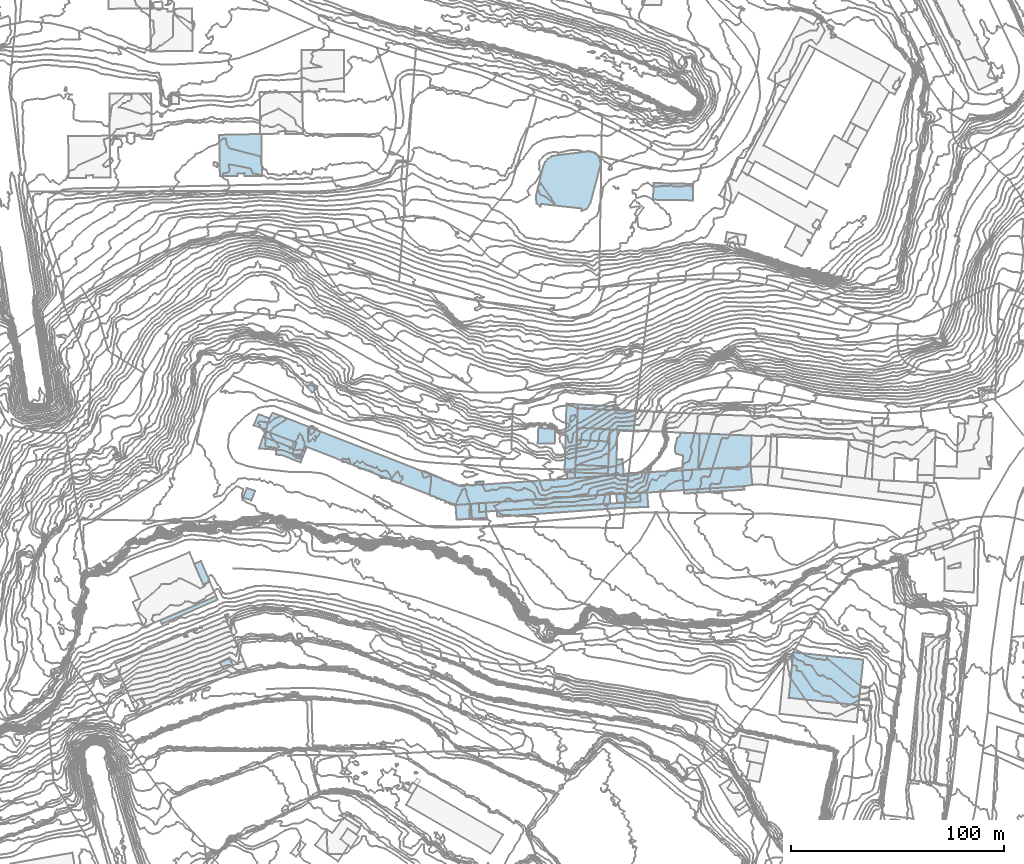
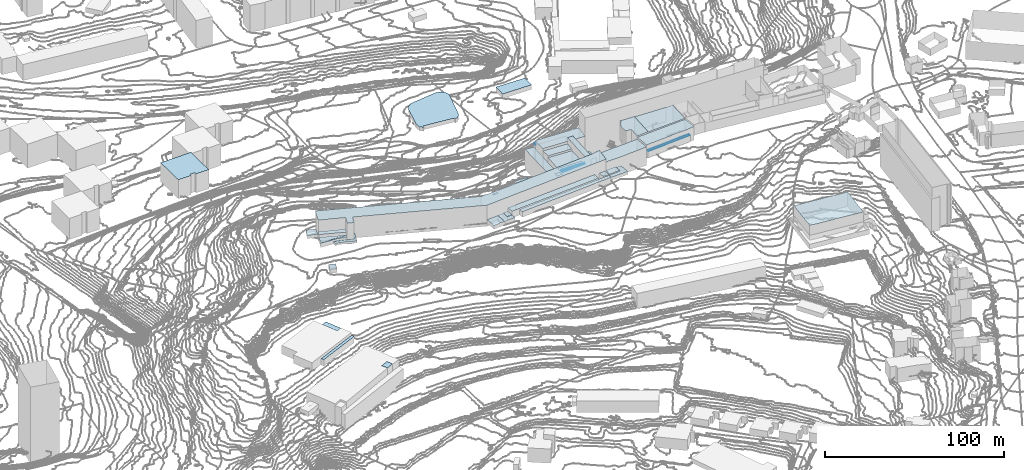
# Not in any storey, part 78 of 419: 39 roofs.
"""IFC2X3 model written with IfcOpenShell, lengths in metres."""

from ifc_helpers import new_model, si_unit, frame, origin_with_axes, place, context, subcontext, project, faceted_brep, element, save


model = new_model("IFC2X3")

# Units and contexts
model_context = context("Model", 3, precision=1e-05, world=origin_with_axes())
body_context = subcontext(model_context, "Body", "Model", "MODEL_VIEW")
ifc_project = project(units=[si_unit("AREAUNIT", "SQUARE_METRE"), si_unit("LENGTHUNIT", "METRE")], contexts=[model_context])

# Roofs
roof_1_placement = place(None, frame((482.4920204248, 335.3976909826, 61.9800003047), z_axis=(0.0, 0.0, 1.0), x_axis=(1.0, 0.0, 0.0)))
element("IfcRoof", 1, at=roof_1_placement, Name="Toiture 0", ShapeType="NOTDEFINED", context=body_context, shape_type="Brep", body=[
    faceted_brep([(8.1, 6.7000000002, 2.2199996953), (0.2999999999, 7.2000000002, 2.2199996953), (0.0, 0.0, 2.2199996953), (8.0, -0.2000000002, 2.2199996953)], [[[0, 1, 2]], [[2, 3, 0]]]),
])
roof_2_placement = place(None, frame((500.8920204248, 342.6976909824, 62.8028995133), z_axis=(0.0, 0.0, 1.0), x_axis=(1.0, 0.0, 0.0)))
element("IfcRoof", 2, at=roof_2_placement, Name="Toiture 0", ShapeType="NOTDEFINED", context=body_context, shape_type="Brep", body=[
    faceted_brep([(15.0, -6.5, 15.4971004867), (15.5, -0.7999999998, 15.4971004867), (0.0, 0.0, 15.4971004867), (0.1, -5.7000000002, 15.4971004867)], [[[0, 1, 2]], [[2, 3, 0]]]),
])
roof_3_placement = place(None, frame((523.5920204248, 307.5976909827, 72.433000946), z_axis=(0.0, 0.0, 1.0), x_axis=(1.0, 0.0, 0.0)))
element("IfcRoof", 3, at=roof_3_placement, Name="Toiture 0", ShapeType="NOTDEFINED", context=body_context, shape_type="Brep", body=[
    faceted_brep([(0.5, 4.5, 3.166999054), (0.0, 0.0, 3.166999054), (7.1, 0.5, 3.166999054), (6.9, 4.7000000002, 3.166999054)], [[[0, 1, 2]], [[2, 3, 0]]]),
])
roof_4_placement = place(None, frame((600.1920204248, 216.0976909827, 59.4442009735), z_axis=(0.0, 0.0, 1.0), x_axis=(1.0, 0.0, 0.0)))
element("IfcRoof", 4, at=roof_4_placement, Name="Toiture 0", ShapeType="NOTDEFINED", context=body_context, shape_type="Brep", body=[
    faceted_brep([(2.1, 21.2999999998, 9.8557990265), (2.0, 20.2999999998, 9.8557990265), (0.0, 0.0, 9.8557990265), (32.7000000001, -3.5, 9.8557990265), (34.9, 17.8999999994, 9.8557990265)], [[[0, 1, 2]], [[2, 3, 4]], [[4, 0, 2]]]),
])
roof_5_placement = place(None, frame((453.3920204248, 316.0976909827, 70.8680007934), z_axis=(0.0, 0.0, 1.0), x_axis=(1.0, 0.0, 0.0)))
element("IfcRoof", 5, at=roof_5_placement, Name="Toiture 0", ShapeType="NOTDEFINED", context=body_context, shape_type="Brep", body=[
    faceted_brep([(0.0, 0.0, 9.8319992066), (3.7999999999, 0.0, 9.8319992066), (3.7, 1.5, 9.8319992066), (0.0, 1.2000000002, 9.8319992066)], [[[0, 1, 2]], [[2, 3, 0]]]),
])
roof_6_placement = place(None, frame((454.9920204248, 307.3976909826, 71.1009986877), z_axis=(0.0, 0.0, 1.0), x_axis=(1.0, 0.0, 0.0)))
element("IfcRoof", 6, at=roof_6_placement, Name="Toiture 0", ShapeType="NOTDEFINED", context=body_context, shape_type="Brep", body=[
    faceted_brep([(0.1, -4.2000000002, 2.3990013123), (3.2999999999, -4.0, 2.3990013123), (3.1, 0.0999999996, 2.3990013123), (0.0, 0.0, 2.3990013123)], [[[0, 1, 2]], [[2, 3, 0]]]),
])
roof_7_placement = place(None, frame((359.6920204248, 332.3976909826, 70.7447981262), z_axis=(0.0, 0.0, 1.0), x_axis=(1.0, 0.0, 0.0)))
element("IfcRoof", 7, at=roof_7_placement, Name="Toiture 0", ShapeType="NOTDEFINED", context=body_context, shape_type="Brep", body=[
    faceted_brep([(11.6, -6.0, 1.2552018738), (14.5, 1.2999999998, 1.2552018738), (13.4, 1.7000000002, 1.2552018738), (11.5, -3.2999999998, 1.2552018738), (3.0, -0.2000000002, 1.2552018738), (0.0, 0.0, 1.2552018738), (0.1, -2.2999999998, 1.2552018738), (2.7000000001, -2.5, 1.2552018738)], [[[0, 1, 2]], [[3, 4, 5]], [[5, 6, 7]], [[0, 2, 3]], [[3, 5, 7]], [[7, 0, 3]]]),
])
roof_8_placement = place(None, frame((353.7920204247, 338.4976909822, 70.8936001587), z_axis=(0.0, 0.0, 1.0), x_axis=(1.0, 0.0, 0.0)))
element("IfcRoof", 8, at=roof_8_placement, Name="Toiture 0", ShapeType="NOTDEFINED", context=body_context, shape_type="Brep", body=[
    faceted_brep([(1.1000000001, 2.6000000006, 4.3063998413), (0.0, 0.0, 4.3063998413), (14.6000000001, -5.6999999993, 4.3063998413), (15.6000000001, -2.7999999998, 4.3063998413)], [[[0, 1, 2]], [[2, 3, 0]]]),
])
roof_9_placement = place(None, frame((496.2920204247, 318.7976909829, 68.0380012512), z_axis=(0.0, 0.0, 1.0), x_axis=(1.0, 0.0, 0.0)))
element("IfcRoof", 9, at=roof_9_placement, Name="Toiture 0", ShapeType="NOTDEFINED", context=body_context, shape_type="Brep", body=[
    faceted_brep([(3.8, 2.8999999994, 8.9619987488), (0.1000000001, 3.0999999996, 8.9619987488), (0.0, 0.0, 8.9619987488), (3.7000000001, 0.3999999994, 8.9619987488)], [[[0, 1, 2]], [[2, 3, 0]]]),
])
roof_10_placement = place(None, frame((500.1920204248, 325.2976909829, 63.6840002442), z_axis=(0.0, 0.0, 1.0), x_axis=(1.0, 0.0, 0.0)))
element("IfcRoof", 10, at=roof_10_placement, Name="Toiture 0", ShapeType="NOTDEFINED", context=body_context, shape_type="Brep", body=[
    faceted_brep([(15.5, -0.7000000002, 13.5159997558), (15.7000000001, 10.8999999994, 13.5159997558), (0.8, 11.6999999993, 13.5159997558), (0.0, 0.0, 13.5159997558)], [[[0, 1, 2]], [[2, 3, 0]]]),
])
roof_11_placement = place(None, frame((500.8920204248, 342.6976909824, 61.1534983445), z_axis=(0.0, 0.0, 1.0), x_axis=(1.0, 0.0, 0.0)))
element("IfcRoof", 11, at=roof_11_placement, Name="Toiture 0", ShapeType="NOTDEFINED", context=body_context, shape_type="Brep", body=[
    faceted_brep([(26.6, -1.2999999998, 18.6465016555), (27.7, 7.7999999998, 18.6465016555), (0.3999999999, 9.0, 18.6465016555), (0.0, 0.0, 18.6465016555)], [[[0, 1, 2]], [[2, 3, 0]]]),
])
roof_12_placement = place(None, frame((519.2920204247, 311.4976909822, 72.7560012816), z_axis=(0.0, 0.0, 1.0), x_axis=(1.0, 0.0, 0.0)))
element("IfcRoof", 12, at=roof_12_placement, Name="Toiture 0", ShapeType="NOTDEFINED", context=body_context, shape_type="Brep", body=[
    faceted_brep([(0.5, -4.0, 2.7439987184), (4.3, -3.8999999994, 2.7439987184), (3.8, 0.3000000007, 2.7439987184), (0.0, 0.0, 2.7439987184)], [[[0, 1, 2]], [[2, 3, 0]]]),
])
roof_13_placement = place(None, frame((443.9920204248, 306.4976909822, 70.7701998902), z_axis=(0.0, 0.0, 1.0), x_axis=(1.0, 0.0, 0.0)))
element("IfcRoof", 13, at=roof_13_placement, Name="Toiture 0", ShapeType="NOTDEFINED", context=body_context, shape_type="Brep", body=[
    faceted_brep([(7.7, -6.3999999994, 2.4298001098), (7.2, 0.5, 2.4298001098), (0.0, 0.0, 2.4298001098), (0.5, -6.8999999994, 2.4298001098)], [[[0, 1, 2]], [[2, 3, 0]]]),
])
roof_14_placement = place(None, frame((458.0920204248, 307.4976909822, 71.2509986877), z_axis=(0.0, 0.0, 1.0), x_axis=(1.0, 0.0, 0.0)))
element("IfcRoof", 14, at=roof_14_placement, Name="Toiture 0", ShapeType="NOTDEFINED", context=body_context, shape_type="Brep", body=[
    faceted_brep([(5.2, -3.6999999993, 4.5490013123), (58.2, -0.3999999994, 4.5490013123), (58.2, 3.9000000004, 4.5490013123), (0.0, 0.0, 4.5490013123), (0.2, -4.0999999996, 4.5490013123)], [[[0, 1, 2]], [[2, 3, 4]], [[4, 0, 2]]]),
])
roof_15_placement = place(None, frame((546.8920204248, 331.6976909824, 72.5606993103), z_axis=(0.0, 0.0, 1.0), x_axis=(1.0, 0.0, 0.0)))
element("IfcRoof", 15, at=roof_15_placement, Name="Toiture 0", ShapeType="NOTDEFINED", context=body_context, shape_type="Brep", body=[
    faceted_brep([(1.0, 6.2000000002, 10.7393006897), (0.0, 2.0, 10.7393006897), (0.0, 0.0, 10.7393006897), (0.6, -1.2000000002, 10.7393006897), (3.7, -2.0999999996, 10.7393006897), (3.3999999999, -9.0, 10.7393006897), (10.7999999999, -8.3999999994, 10.7393006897), (11.6, 8.2999999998, 10.7393006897), (2.5, 8.7000000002, 10.7393006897), (2.3999999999, 7.2999999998, 10.7393006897)], [[[0, 1, 2]], [[2, 3, 4]], [[4, 5, 6]], [[6, 7, 8]], [[9, 0, 2]], [[4, 6, 8]], [[9, 2, 4]], [[4, 8, 9]]]),
])
roof_16_placement = place(None, frame((501.2920204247, 351.6976909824, 60.5035990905), z_axis=(0.0, 0.0, 1.0), x_axis=(1.0, 0.0, 0.0)))
element("IfcRoof", 16, at=roof_16_placement, Name="Toiture 0", ShapeType="NOTDEFINED", context=body_context, shape_type="Brep", body=[
    faceted_brep([(0.0, 0.0, 16.1964009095), (19.3, -0.8999999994, 16.1964009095), (19.4, 0.2000000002, 16.1964009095), (15.7000000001, 1.1000000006, 16.1964009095), (0.1000000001, 1.9000000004, 16.1964009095)], [[[0, 1, 2]], [[2, 3, 4]], [[4, 0, 2]]]),
])
roof_17_placement = place(None, frame((351.7920204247, 332.9976909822, 70.4999981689), z_axis=(0.0, 0.0, 1.0), x_axis=(1.0, 0.0, 0.0)))
element("IfcRoof", 17, at=roof_17_placement, Name="Toiture 0", ShapeType="NOTDEFINED", context=body_context, shape_type="Brep", body=[
    faceted_brep([(0.0, 0.0, 2.8000018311), (7.9, -0.5999999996, 2.8000018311), (10.9, -0.7999999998, 2.8000018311), (15.6000000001, -2.5999999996, 2.8000018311), (16.6000000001, -0.1999999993, 2.8000018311), (2.0, 5.5, 2.8000018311)], [[[0, 1, 2]], [[2, 3, 4]], [[4, 5, 0]], [[0, 2, 4]]]),
])
roof_18_placement = place(None, frame((349.2920204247, 343.7976909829, 70.8820007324), z_axis=(0.0, 0.0, 1.0), x_axis=(1.0, 0.0, 0.0)))
element("IfcRoof", 18, at=roof_18_placement, Name="Toiture 0", ShapeType="NOTDEFINED", context=body_context, shape_type="Brep", body=[
    faceted_brep([(0.0, 0.0, 1.9179992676), (5.8, -2.0, 1.9179992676), (7.5, 3.2999999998, 1.9179992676), (2.3, 5.1999999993, 1.9179992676)], [[[0, 1, 2]], [[2, 3, 0]]]),
])
roof_19_placement = place(None, frame((463.2920204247, 303.7976909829, 71.4100021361), z_axis=(0.0, 0.0, 1.0), x_axis=(1.0, 0.0, 0.0)))
element("IfcRoof", 19, at=roof_19_placement, Name="Toiture 0", ShapeType="NOTDEFINED", context=body_context, shape_type="Brep", body=[
    faceted_brep([(0.3, -2.8000000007, 3.6899978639), (60.0, 1.3999999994, 3.6899978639), (60.3, 3.7999999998, 3.6899978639), (0.0, 0.0, 3.6899978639)], [[[0, 1, 2]], [[2, 3, 0]]]),
])
roof_20_placement = place(None, frame((519.1920204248, 320.3976909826, 68.262001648), z_axis=(0.0, 0.0, 1.0), x_axis=(1.0, 0.0, 0.0)))
element("IfcRoof", 20, at=roof_20_placement, Name="Toiture 0", ShapeType="NOTDEFINED", context=body_context, shape_type="Brep", body=[
    faceted_brep([(0.0, 0.0, 11.237998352), (3.7000000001, 0.5, 11.237998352), (3.0, 7.5999999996, 11.237998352), (0.3, 7.2999999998, 11.237998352)], [[[0, 1, 2]], [[2, 3, 0]]]),
])
roof_21_placement = place(None, frame((495.0920204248, 321.9976909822, 60.5035990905), z_axis=(0.0, 0.0, 1.0), x_axis=(1.0, 0.0, 0.0)))
element("IfcRoof", 21, at=roof_21_placement, Name="Toiture 0", ShapeType="NOTDEFINED", context=body_context, shape_type="Brep", body=[
    faceted_brep([(0.0, 0.0, 13.6964009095), (5.0, -0.2999999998, 13.6964009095), (6.3, 31.6000000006, 13.6964009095), (0.9, 32.0, 13.6964009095)], [[[0, 1, 2]], [[2, 3, 0]]]),
])
roof_22_placement = place(None, frame((374.3920204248, 361.8976909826, 68.7120025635), z_axis=(0.0, 0.0, 1.0), x_axis=(1.0, 0.0, 0.0)))
element("IfcRoof", 22, at=roof_22_placement, Name="Toiture 0", ShapeType="NOTDEFINED", context=body_context, shape_type="Brep", body=[
    faceted_brep([(2.2999999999, -2.7000000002, 1.1879974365), (4.7, -0.7000000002, 1.1879974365), (2.3999999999, 2.2999999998, 1.1879974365), (0.0, 0.0, 1.1879974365)], [[[0, 1, 2]], [[2, 3, 0]]]),
])
roof_23_placement = place(None, frame((551.0920204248, 311.7976909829, 74.7885005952), z_axis=(0.0, 0.0, 1.0), x_axis=(1.0, 0.0, 0.0)))
element("IfcRoof", 23, at=roof_23_placement, Name="Toiture 0", ShapeType="NOTDEFINED", context=body_context, shape_type="Brep", body=[
    faceted_brep([(28.1, 3.5, 4.4114994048), (0.0, 1.6999999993, 4.4114994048), (0.0, 0.0, 4.4114994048), (28.3, 1.8999999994, 4.4114994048)], [[[0, 1, 2]], [[2, 3, 0]]]),
])
roof_24_placement = place(None, frame((550.2920204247, 322.6976909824, 73.3091989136), z_axis=(0.0, 0.0, 1.0), x_axis=(1.0, 0.0, 0.0)))
element("IfcRoof", 24, at=roof_24_placement, Name="Toiture 0", ShapeType="NOTDEFINED", context=body_context, shape_type="Brep", body=[
    faceted_brep([(0.0, 0.0, 9.1908010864), (0.8, -9.2000000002, 9.1908010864), (28.9, -7.3999999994, 9.1908010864), (32.9, -6.7999999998, 9.1908010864), (32.0, 1.7999999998, 9.1908010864)], [[[0, 1, 2]], [[2, 3, 4]], [[4, 0, 2]]]),
])
roof_25_placement = place(None, frame((524.0920204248, 312.0976909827, 68.7560028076), z_axis=(0.0, 0.0, 1.0), x_axis=(1.0, 0.0, 0.0)))
element("IfcRoof", 25, at=roof_25_placement, Name="Toiture 0", ShapeType="NOTDEFINED", context=body_context, shape_type="Brep", body=[
    faceted_brep([(0.0, 0.0, 12.4439971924), (9.7, 0.2000000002, 12.4439971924), (27.0, 1.3999999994, 12.4439971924), (26.2, 10.5999999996, 12.4439971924), (1.1, 9.2999999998, 12.4439971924)], [[[0, 1, 2]], [[2, 3, 4]], [[4, 0, 2]]]),
])
roof_26_placement = place(None, frame((523.2920204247, 305.1976909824, 73.017001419), z_axis=(0.0, 0.0, 1.0), x_axis=(1.0, 0.0, 0.0)))
element("IfcRoof", 26, at=roof_26_placement, Name="Toiture 0", ShapeType="NOTDEFINED", context=body_context, shape_type="Brep", body=[
    faceted_brep([(0.3, 2.4000000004, 2.082998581), (0.0, 0.0, 2.082998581), (11.1000000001, 0.4000000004, 2.082998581), (10.5, 7.1000000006, 2.082998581), (7.2000000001, 7.1000000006, 2.082998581), (7.4, 2.9000000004, 2.082998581)], [[[0, 1, 2]], [[2, 3, 4]], [[5, 0, 2]], [[2, 4, 5]]]),
])
roof_27_placement = place(None, frame((451.1920204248, 306.9976909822, 70.9462012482), z_axis=(0.0, 0.0, 1.0), x_axis=(1.0, 0.0, 0.0)))
element("IfcRoof", 27, at=roof_27_placement, Name="Toiture 0", ShapeType="NOTDEFINED", context=body_context, shape_type="Brep", body=[
    faceted_brep([(7.5, -6.5, 2.3537987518), (7.1, -3.5999999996, 2.3537987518), (3.9, -3.7999999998, 2.3537987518), (3.8, 0.4000000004, 2.3537987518), (0.0, 0.0, 2.3537987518), (0.5, -6.8999999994, 2.3537987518)], [[[0, 1, 2]], [[2, 3, 4]], [[5, 0, 2]], [[2, 4, 5]]]),
])
roof_28_placement = place(None, frame((536.5920204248, 449.5976909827, 36.7559989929), z_axis=(0.0, 0.0, 1.0), x_axis=(1.0, 0.0, 0.0)))
element("IfcRoof", 28, at=roof_28_placement, Name="Toiture 0", ShapeType="NOTDEFINED", context=body_context, shape_type="Brep", body=[
    faceted_brep([(0.0, 0.0, 3.0440010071), (18.6, -0.2999999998, 3.0440010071), (18.7, 7.3999999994, 3.0440010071), (0.2, 7.7999999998, 3.0440010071)], [[[0, 1, 2]], [[2, 3, 0]]]),
])
roof_29_placement = place(None, frame((321.4920204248, 278.8976909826, 56.6435998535), z_axis=(0.0, 0.0, 1.0), x_axis=(1.0, 0.0, 0.0)))
element("IfcRoof", 29, at=roof_29_placement, Name="Toiture 0", ShapeType="NOTDEFINED", context=body_context, shape_type="Brep", body=[
    faceted_brep([(3.2, 1.2999999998, 4.5564001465), (0.0, 0.0, 4.5564001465), (4.2, -9.5999999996, 4.5564001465), (7.2999999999, -8.2999999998, 4.5564001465)], [[[0, 1, 2]], [[2, 3, 0]]]),
])
roof_30_placement = place(None, frame((354.8920204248, 341.0976909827, 68.7560028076), z_axis=(0.0, 0.0, 1.0), x_axis=(1.0, 0.0, 0.0)))
element("IfcRoof", 30, at=roof_30_placement, Name="Toiture 0", ShapeType="NOTDEFINED", context=body_context, shape_type="Brep", body=[
    faceted_brep([(89.1, -34.6000000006, 14.3439971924), (169.2, -29.0, 14.3439971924), (170.2999999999, -19.7000000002, 14.3439971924), (90.5, -25.4000000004, 14.3439971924), (3.2, 8.5999999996, 14.3439971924), (1.8999999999, 6.0, 14.3439971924), (0.0, 0.0, 14.3439971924), (14.5, -5.4000000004, 14.3439971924), (12.5, -10.7000000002, 14.3439971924), (16.2999999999, -12.0, 14.3439971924), (164.2999999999, -20.7000000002, 14.3439971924), (18.2, -7.0, 14.3439971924), (102.2999999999, -25.0, 14.3439971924)], [[[0, 1, 2]], [[3, 4, 5]], [[5, 6, 7]], [[7, 8, 9]], [[0, 2, 10]], [[3, 5, 7]], [[7, 9, 11]], [[0, 10, 12]], [[3, 7, 11]], [[0, 12, 3]], [[3, 11, 0]]]),
])
roof_31_placement = place(None, frame((515.3920204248, 320.1976909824, 66.7630004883), z_axis=(0.0, 0.0, 1.0), x_axis=(1.0, 0.0, 0.0)))
element("IfcRoof", 31, at=roof_31_placement, Name="Toiture 0", ShapeType="NOTDEFINED", context=body_context, shape_type="Brep", body=[
    faceted_brep([(0.0, 0.0, 15.6369995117), (3.7999999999, 0.2000000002, 15.6369995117), (4.5, 21.7000000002, 15.6369995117), (1.0, 21.7000000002, 15.6369995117)], [[[0, 1, 2]], [[2, 3, 0]]]),
])
roof_32_placement = place(None, frame((500.0920204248, 321.6976909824, 67.9910018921), z_axis=(0.0, 0.0, 1.0), x_axis=(1.0, 0.0, 0.0)))
element("IfcRoof", 32, at=roof_32_placement, Name="Toiture 0", ShapeType="NOTDEFINED", context=body_context, shape_type="Brep", body=[
    faceted_brep([(15.3, -0.5, 9.3089981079), (15.6, 2.9000000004, 9.3089981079), (0.1, 3.6000000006, 9.3089981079), (0.0, 0.0, 9.3089981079)], [[[0, 1, 2]], [[2, 3, 0]]]),
])
roof_33_placement = place(None, frame((557.6920204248, 323.2976909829, 73.4162023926), z_axis=(0.0, 0.0, 1.0), x_axis=(1.0, 0.0, 0.0)))
element("IfcRoof", 33, at=roof_33_placement, Name="Toiture 0", ShapeType="NOTDEFINED", context=body_context, shape_type="Brep", body=[
    faceted_brep([(0.8, 16.6999999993, 9.6837976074), (0.0, 0.0, 9.6837976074), (24.6, 1.1999999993, 9.6837976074), (25.1, 15.6999999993, 9.6837976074)], [[[0, 1, 2]], [[2, 3, 0]]]),
])
roof_34_placement = place(None, frame((333.1920204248, 479.9976909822, 32.7179985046), z_axis=(0.0, 0.0, 1.0), x_axis=(1.0, 0.0, 0.0)))
element("IfcRoof", 34, at=roof_34_placement, Name="Toiture 0", ShapeType="NOTDEFINED", context=body_context, shape_type="Brep", body=[
    faceted_brep([(0.3, -19.3999999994, 12.9820014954), (8.6, -19.3999999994, 12.9820014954), (8.6, -18.0999999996, 12.9820014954), (11.8, -18.0, 12.9820014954), (11.8, -19.2999999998, 12.9820014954), (20.0, -19.3999999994, 12.9820014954), (19.8, 0.4000000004, 12.9820014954), (0.0, 0.0, 12.9820014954)], [[[0, 1, 2]], [[3, 4, 5]], [[5, 6, 7]], [[7, 0, 2]], [[3, 5, 7]], [[7, 2, 3]]]),
])
roof_35_placement = place(None, frame((499.9920204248, 319.1976909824, 68.3109996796), z_axis=(0.0, 0.0, 1.0), x_axis=(1.0, 0.0, 0.0)))
element("IfcRoof", 35, at=roof_35_placement, Name="Toiture 0", ShapeType="NOTDEFINED", context=body_context, shape_type="Brep", body=[
    faceted_brep([(15.4, 1.0, 9.8890003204), (15.4, 2.0, 9.8890003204), (0.1, 2.5, 9.8890003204), (0.0, 0.0, 9.8890003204)], [[[0, 1, 2]], [[2, 3, 0]]]),
])
roof_36_placement = place(None, frame((305.5920204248, 252.4976909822, 55.1826000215), z_axis=(0.0, 0.0, 1.0), x_axis=(1.0, 0.0, 0.0)))
element("IfcRoof", 36, at=roof_36_placement, Name="Toiture 0", ShapeType="NOTDEFINED", context=body_context, shape_type="Brep", body=[
    faceted_brep([(0.0, 0.0, 4.3173999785), (0.7, -1.6999999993, 4.3173999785), (26.9, 9.6000000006, 4.3173999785), (26.2, 11.3000000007, 4.3173999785)], [[[0, 1, 2]], [[2, 3, 0]]]),
])
roof_37_placement = place(None, frame((344.3920204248, 309.8976909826, 69.3180000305), z_axis=(0.0, 0.0, 1.0), x_axis=(1.0, 0.0, 0.0)))
element("IfcRoof", 37, at=roof_37_placement, Name="Toiture 0", ShapeType="NOTDEFINED", context=body_context, shape_type="Brep", body=[
    faceted_brep([(0.0, 0.0, 2.7819999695), (3.7999999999, -1.2000000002, 2.7819999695), (5.6, 3.2000000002, 2.7819999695), (1.7, 4.5999999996, 2.7819999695)], [[[0, 1, 2]], [[2, 3, 0]]]),
])
roof_38_placement = place(None, frame((481.6920204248, 451.4976909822, 34.9703996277), z_axis=(0.0, 0.0, 1.0), x_axis=(1.0, 0.0, 0.0)))
element("IfcRoof", 38, at=roof_38_placement, Name="Toiture 0", ShapeType="NOTDEFINED", context=body_context, shape_type="Brep", body=[
    faceted_brep([(21.4, -6.0, 2.6296003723), (21.4, -7.1999999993, 2.6296003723), (23.7000000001, -6.1999999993, 2.6296003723), (25.5, -3.5, 2.6296003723), (30.2000000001, 14.4000000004, 2.6296003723), (30.1, 16.9000000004, 2.6296003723), (29.1, 18.9000000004, 2.6296003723), (27.7000000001, 20.1000000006, 2.6296003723), (24.9, 20.8000000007, 2.6296003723), (8.8, 18.8000000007, 2.6296003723), (7.4, 18.5, 2.6296003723), (5.4, 17.2000000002, 2.6296003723), (4.2000000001, 15.8000000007, 2.6296003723), (3.3, 13.7000000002, 2.6296003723), (0.0, 0.0, 2.6296003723), (0.2000000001, -3.6999999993, 2.6296003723), (1.8, -5.0999999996, 2.6296003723), (2.2000000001, -5.0999999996, 2.6296003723), (2.3, -3.8999999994, 2.6296003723)], [[[0, 1, 2]], [[2, 3, 4]], [[4, 5, 6]], [[6, 7, 8]], [[8, 9, 10]], [[10, 11, 12]], [[12, 13, 14]], [[14, 15, 16]], [[16, 17, 18]], [[18, 0, 2]], [[2, 4, 6]], [[6, 8, 10]], [[10, 12, 14]], [[14, 16, 18]], [[18, 2, 6]], [[6, 10, 14]], [[14, 18, 6]]]),
])
roof_39_placement = place(None, frame((333.3920204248, 232.8976909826, 43.2073001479), z_axis=(0.0, 0.0, 1.0), x_axis=(1.0, 0.0, 0.0)))
element("IfcRoof", 39, at=roof_39_placement, Name="Toiture 0", ShapeType="NOTDEFINED", context=body_context, shape_type="Brep", body=[
    faceted_brep([(0.0, 0.0, 13.5926998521), (1.8999999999, -3.4000000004, 13.5926998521), (6.2, -1.5, 13.5926998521), (4.6, 2.0999999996, 13.5926998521)], [[[0, 1, 2]], [[2, 3, 0]]]),
])

save(model, "model.ifc")
